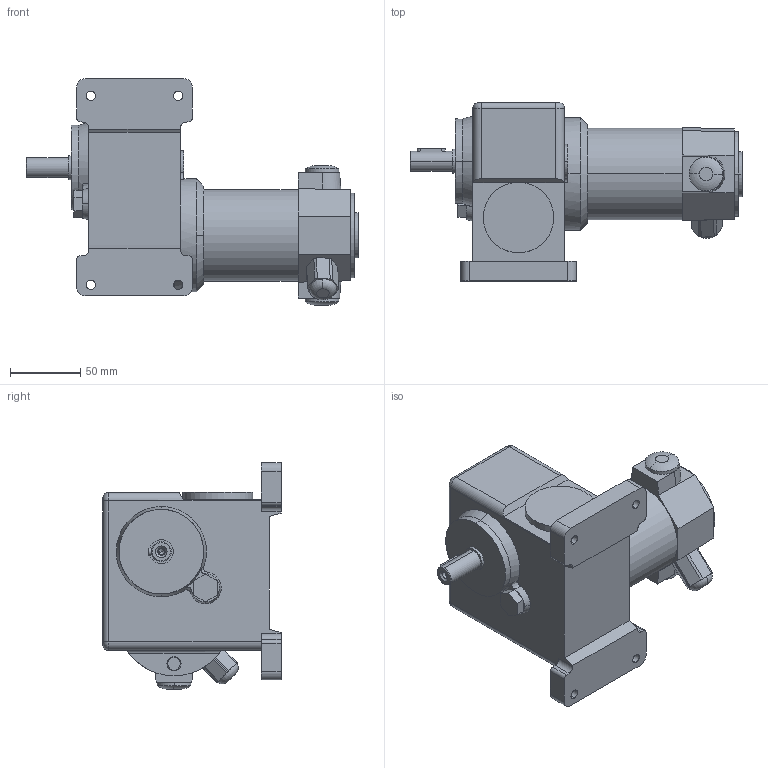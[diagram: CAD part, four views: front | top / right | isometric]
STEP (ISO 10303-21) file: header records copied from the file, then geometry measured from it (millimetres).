
FILE_DESCRIPTION(('OneSpaceDesigner STEP Export'),'2;1');
FILE_NAME('EPG02_G24.stp','2008-07-17T 7:50:11',(''),(''),'OneSpace Designer STEP processor (Jan. 2003) for AP214(CD)(Solid Model)','OneSpace Designer 12.01D 09-Jul-2004 (C) CoCreate Software GmbH','');
FILE_SCHEMA(('AUTOMOTIVE_DESIGN_CC2 {1 2 10303 214 -1 1 5 1}'));
Length unit declared in the file: millimetre
Products named in the file (2): EPG02_G24
Assembly tree (1 placements, depth 2):
  EPG02_G24
    EPG02_G24
Bounding box: 235.5 x 126.5 x 160.5 mm (x, y, z)
Volume: 1434731.2 mm3; surface area: 105159.1 mm2
Topology: 1 solids, 1 shells, 175 faces, 463 edges, 305 vertices
Faces by surface type: plane 75, cylinder 72, torus 10, cone 10, bspline 8
Entity records: 9956 total; most frequent: CARTESIAN_POINT 5884, ORIENTED_EDGE 922, DIRECTION 741, EDGE_CURVE 461, VERTEX_POINT 305, AXIS2_PLACEMENT_3D 254, VECTOR 233, LINE 233
